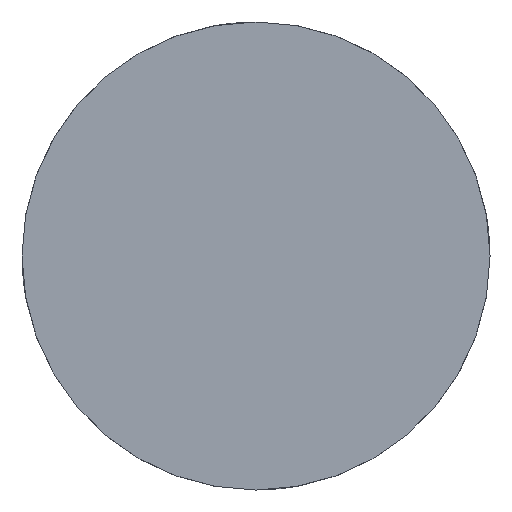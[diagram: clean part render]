
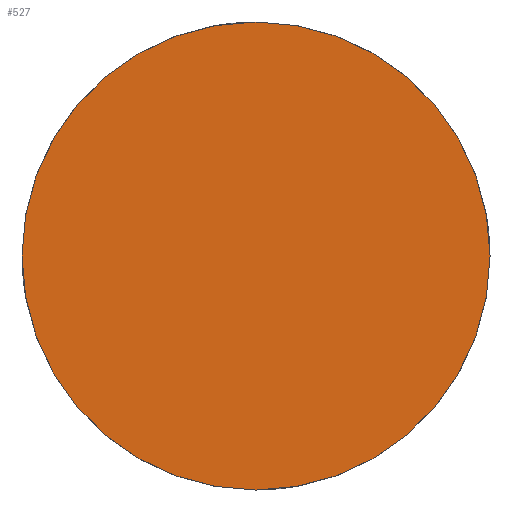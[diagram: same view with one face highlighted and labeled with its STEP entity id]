
A CAD part, left-side view. The second image highlights one B-rep face of the part: STEP entity #527.
In plain terms, the highlighted planar face has unit normal (-1, 0, 0).
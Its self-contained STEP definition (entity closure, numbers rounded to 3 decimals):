
#459=CARTESIAN_POINT('Vertex',(-3.,0.,-3.)) ;
#462=CARTESIAN_POINT('Axis2P3D Location',(-3.,0.,0.)) ;
#466=CARTESIAN_POINT('Vertex',(-3.,3.,0.)) ;
#469=CARTESIAN_POINT('Axis2P3D Location',(-3.,0.,0.)) ;
#473=CARTESIAN_POINT('Vertex',(-3.,0.,3.)) ;
#495=CARTESIAN_POINT('Axis2P3D Location',(-3.,0.,0.)) ;
#499=CARTESIAN_POINT('Vertex',(-3.,-3.,0.)) ;
#502=CARTESIAN_POINT('Axis2P3D Location',(-3.,0.,0.)) ;
#516=CARTESIAN_POINT('Axis2P3D Location',(-3.,0.,0.)) ;
#463=DIRECTION('Axis2P3D Direction',(-1.,-0.,-0.)) ;
#470=DIRECTION('Axis2P3D Direction',(-1.,-0.,-0.)) ;
#496=DIRECTION('Axis2P3D Direction',(-1.,-0.,-0.)) ;
#503=DIRECTION('Axis2P3D Direction',(-1.,-0.,-0.)) ;
#517=DIRECTION('Axis2P3D Direction',(1.,0.,-0.)) ;
#518=DIRECTION('Axis2P3D XDirection',(-0.,0.,-1.)) ;
#464=AXIS2_PLACEMENT_3D('Circle Axis2P3D',#462,#463,$) ;
#471=AXIS2_PLACEMENT_3D('Circle Axis2P3D',#469,#470,$) ;
#497=AXIS2_PLACEMENT_3D('Circle Axis2P3D',#495,#496,$) ;
#504=AXIS2_PLACEMENT_3D('Circle Axis2P3D',#502,#503,$) ;
#519=AXIS2_PLACEMENT_3D('Plane Axis2P3D',#516,#517,#518) ;
#522=ORIENTED_EDGE('',*,*,#468,.F.) ;
#523=ORIENTED_EDGE('',*,*,#506,.F.) ;
#524=ORIENTED_EDGE('',*,*,#501,.F.) ;
#525=ORIENTED_EDGE('',*,*,#475,.F.) ;
#527=ADVANCED_FACE('359-1,5X3X100',(#526),#520,.F.) ;
#465=CIRCLE('generated circle',#464,3.) ;
#472=CIRCLE('generated circle',#471,3.) ;
#498=CIRCLE('generated circle',#497,3.) ;
#505=CIRCLE('generated circle',#504,3.) ;
#468=EDGE_CURVE('',#460,#467,#465,.F.) ;
#475=EDGE_CURVE('',#467,#474,#472,.F.) ;
#501=EDGE_CURVE('',#474,#500,#498,.F.) ;
#506=EDGE_CURVE('',#500,#460,#505,.F.) ;
#521=EDGE_LOOP('',(#522,#523,#524,#525)) ;
#526=FACE_OUTER_BOUND('',#521,.T.) ;
#520=PLANE('Plane',#519) ;
#460=VERTEX_POINT('',#459) ;
#467=VERTEX_POINT('',#466) ;
#474=VERTEX_POINT('',#473) ;
#500=VERTEX_POINT('',#499) ;
